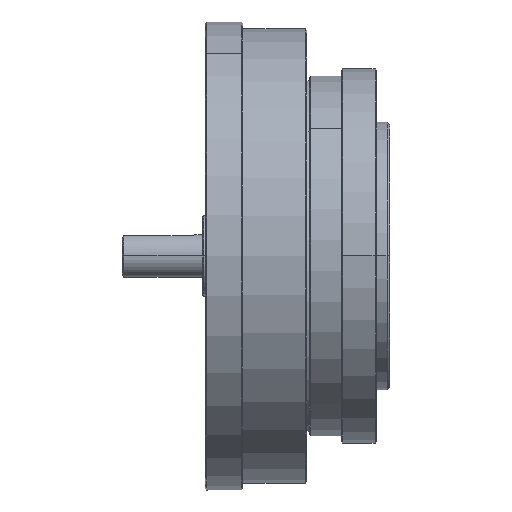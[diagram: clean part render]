
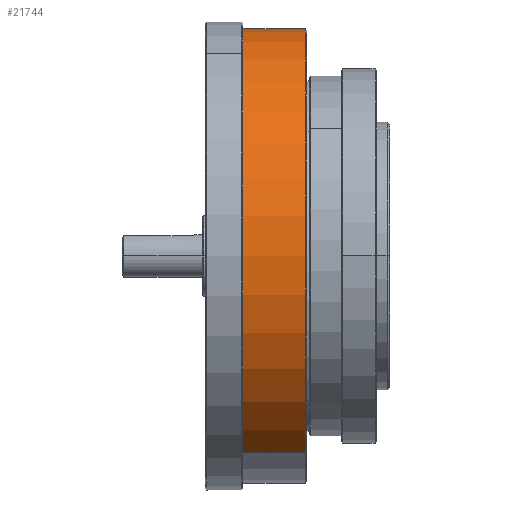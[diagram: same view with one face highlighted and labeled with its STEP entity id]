
A CAD part, top view. The second image highlights one B-rep face of the part: STEP entity #21744.
In plain terms, the highlighted cylindrical face has radius 85 mm (diameter 170 mm), a partial arc.
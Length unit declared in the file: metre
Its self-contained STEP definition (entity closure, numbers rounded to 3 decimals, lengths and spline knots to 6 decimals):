
#1416 = AXIS2_PLACEMENT_3D ( 'NONE', #41345, #61142, #6266 ) ;
#5189 = ORIENTED_EDGE ( 'NONE', *, *, #33851, .T. ) ;
#6266 = DIRECTION ( 'NONE',  ( 0., 0.866, -0.5 ) ) ;
#6592 = CIRCLE ( 'NONE', #1416, 0.085 ) ;
#11670 = VERTEX_POINT ( 'NONE', #61757 ) ;
#14788 = LINE ( 'NONE', #48271, #49007 ) ;
#15383 = CARTESIAN_POINT ( 'NONE',  ( -0.0135, 0.073612, -0.0425 ) ) ;
#16194 = ORIENTED_EDGE ( 'NONE', *, *, #48602, .T. ) ;
#18265 = CARTESIAN_POINT ( 'NONE',  ( 0.0145, -0.073612, 0.0425 ) ) ;
#18871 = VERTEX_POINT ( 'NONE', #15383 ) ;
#20068 = VERTEX_POINT ( 'NONE', #18265 ) ;
#21744 = ADVANCED_FACE ( 'NONE', ( #54360 ), #53380, .T. ) ;
#22306 = EDGE_LOOP ( 'NONE', ( #43383, #16194, #5189, #32364 ) ) ;
#24520 = DIRECTION ( 'NONE',  ( 1., 0., 0. ) ) ;
#24541 = VERTEX_POINT ( 'NONE', #35340 ) ;
#25608 = DIRECTION ( 'NONE',  ( 1., 0., 0. ) ) ;
#26059 = AXIS2_PLACEMENT_3D ( 'NONE', #36189, #31613, #42040 ) ;
#29839 = LINE ( 'NONE', #60053, #62469 ) ;
#31613 = DIRECTION ( 'NONE',  ( -1., 0., 0. ) ) ;
#31716 = AXIS2_PLACEMENT_3D ( 'NONE', #38120, #43331, #63132 ) ;
#32364 = ORIENTED_EDGE ( 'NONE', *, *, #55221, .F. ) ;
#33851 = EDGE_CURVE ( 'NONE', #20068, #11670, #44787, .T. ) ;
#35340 = CARTESIAN_POINT ( 'NONE',  ( -0.0135, -0.073612, 0.0425 ) ) ;
#36189 = CARTESIAN_POINT ( 'NONE',  ( 0.0145, 0., 0. ) ) ;
#38120 = CARTESIAN_POINT ( 'NONE',  ( 0.037466, 0., 0. ) ) ;
#41345 = CARTESIAN_POINT ( 'NONE',  ( -0.0135, 0., 0. ) ) ;
#42040 = DIRECTION ( 'NONE',  ( 0., 0.866, -0.5 ) ) ;
#43331 = DIRECTION ( 'NONE',  ( 1., 0., 0. ) ) ;
#43383 = ORIENTED_EDGE ( 'NONE', *, *, #58017, .T. ) ;
#44787 = CIRCLE ( 'NONE', #26059, 0.085 ) ;
#48271 = CARTESIAN_POINT ( 'NONE',  ( 0.037466, -0.073612, 0.0425 ) ) ;
#48602 = EDGE_CURVE ( 'NONE', #24541, #20068, #14788, .T. ) ;
#49007 = VECTOR ( 'NONE', #24520, 1. ) ;
#53380 = CYLINDRICAL_SURFACE ( 'NONE', #31716, 0.085 ) ;
#54360 = FACE_OUTER_BOUND ( 'NONE', #22306, .T. ) ;
#55221 = EDGE_CURVE ( 'NONE', #18871, #11670, #29839, .T. ) ;
#58017 = EDGE_CURVE ( 'NONE', #18871, #24541, #6592, .T. ) ;
#60053 = CARTESIAN_POINT ( 'NONE',  ( 0.037466, 0.073612, -0.0425 ) ) ;
#61142 = DIRECTION ( 'NONE',  ( 1., 0., 0. ) ) ;
#61757 = CARTESIAN_POINT ( 'NONE',  ( 0.0145, 0.073612, -0.0425 ) ) ;
#62469 = VECTOR ( 'NONE', #25608, 1. ) ;
#63132 = DIRECTION ( 'NONE',  ( 0., 0.866, -0.5 ) ) ;
